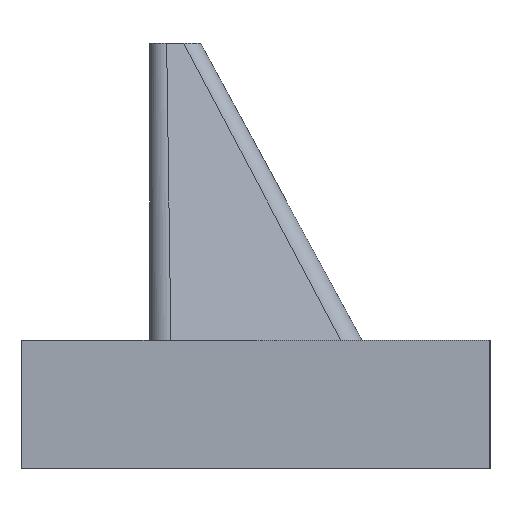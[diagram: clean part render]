
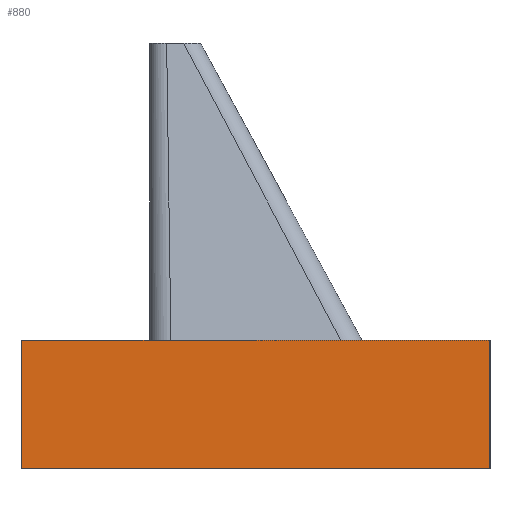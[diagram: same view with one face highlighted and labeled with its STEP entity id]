
A CAD part, left-side view. The second image highlights one B-rep face of the part: STEP entity #880.
In plain terms, the highlighted planar face has unit normal (-1, 0, 0).
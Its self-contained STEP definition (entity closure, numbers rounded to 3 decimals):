
#42 = PLANE('',#43);
#43 = AXIS2_PLACEMENT_3D('',#44,#45,#46);
#44 = CARTESIAN_POINT('',(-6.9,-5.5,3.01));
#45 = DIRECTION('',(0.,0.,1.));
#46 = DIRECTION('',(1.,0.,-0.));
#159 = EDGE_CURVE('',#160,#162,#164,.T.);
#160 = VERTEX_POINT('',#161);
#161 = CARTESIAN_POINT('',(-6.9,-5.5,3.01));
#162 = VERTEX_POINT('',#163);
#163 = CARTESIAN_POINT('',(-6.9,5.5,3.01));
#164 = SURFACE_CURVE('',#165,(#169,#176),.PCURVE_S1.);
#165 = LINE('',#166,#167);
#166 = CARTESIAN_POINT('',(-6.9,-5.5,3.01));
#167 = VECTOR('',#168,1.);
#168 = DIRECTION('',(-0.,1.,0.));
#169 = PCURVE('',#42,#170);
#170 = DEFINITIONAL_REPRESENTATION('',(#171),#175);
#171 = LINE('',#172,#173);
#172 = CARTESIAN_POINT('',(0.,0.));
#173 = VECTOR('',#174,1.);
#174 = DIRECTION('',(0.,1.));
#175 = ( GEOMETRIC_REPRESENTATION_CONTEXT(2) 
PARAMETRIC_REPRESENTATION_CONTEXT() REPRESENTATION_CONTEXT('2D SPACE',''
  ) );
#176 = PCURVE('',#177,#182);
#177 = PLANE('',#178);
#178 = AXIS2_PLACEMENT_3D('',#179,#180,#181);
#179 = CARTESIAN_POINT('',(-6.9,-5.5,0.));
#180 = DIRECTION('',(1.,0.,-0.));
#181 = DIRECTION('',(0.,0.,1.));
#182 = DEFINITIONAL_REPRESENTATION('',(#183),#187);
#183 = LINE('',#184,#185);
#184 = CARTESIAN_POINT('',(3.01,0.));
#185 = VECTOR('',#186,1.);
#186 = DIRECTION('',(0.,-1.));
#187 = ( GEOMETRIC_REPRESENTATION_CONTEXT(2) 
PARAMETRIC_REPRESENTATION_CONTEXT() REPRESENTATION_CONTEXT('2D SPACE',''
  ) );
#205 = PLANE('',#206);
#206 = AXIS2_PLACEMENT_3D('',#207,#208,#209);
#207 = CARTESIAN_POINT('',(-6.9,-5.5,0.));
#208 = DIRECTION('',(-0.,1.,0.));
#209 = DIRECTION('',(0.,0.,1.));
#259 = PLANE('',#260);
#260 = AXIS2_PLACEMENT_3D('',#261,#262,#263);
#261 = CARTESIAN_POINT('',(-6.9,5.5,0.));
#262 = DIRECTION('',(-0.,1.,0.));
#263 = DIRECTION('',(0.,0.,1.));
#880 = ADVANCED_FACE('',(#881),#177,.F.);
#881 = FACE_BOUND('',#882,.F.);
#882 = EDGE_LOOP('',(#883,#906,#934,#955));
#883 = ORIENTED_EDGE('',*,*,#884,.F.);
#884 = EDGE_CURVE('',#885,#160,#887,.T.);
#885 = VERTEX_POINT('',#886);
#886 = CARTESIAN_POINT('',(-6.9,-5.5,0.));
#887 = SURFACE_CURVE('',#888,(#892,#899),.PCURVE_S1.);
#888 = LINE('',#889,#890);
#889 = CARTESIAN_POINT('',(-6.9,-5.5,0.));
#890 = VECTOR('',#891,1.);
#891 = DIRECTION('',(0.,0.,1.));
#892 = PCURVE('',#177,#893);
#893 = DEFINITIONAL_REPRESENTATION('',(#894),#898);
#894 = LINE('',#895,#896);
#895 = CARTESIAN_POINT('',(0.,0.));
#896 = VECTOR('',#897,1.);
#897 = DIRECTION('',(1.,0.));
#898 = ( GEOMETRIC_REPRESENTATION_CONTEXT(2) 
PARAMETRIC_REPRESENTATION_CONTEXT() REPRESENTATION_CONTEXT('2D SPACE',''
  ) );
#899 = PCURVE('',#205,#900);
#900 = DEFINITIONAL_REPRESENTATION('',(#901),#905);
#901 = LINE('',#902,#903);
#902 = CARTESIAN_POINT('',(0.,0.));
#903 = VECTOR('',#904,1.);
#904 = DIRECTION('',(1.,0.));
#905 = ( GEOMETRIC_REPRESENTATION_CONTEXT(2) 
PARAMETRIC_REPRESENTATION_CONTEXT() REPRESENTATION_CONTEXT('2D SPACE',''
  ) );
#906 = ORIENTED_EDGE('',*,*,#907,.T.);
#907 = EDGE_CURVE('',#885,#908,#910,.T.);
#908 = VERTEX_POINT('',#909);
#909 = CARTESIAN_POINT('',(-6.9,5.5,0.));
#910 = SURFACE_CURVE('',#911,(#915,#922),.PCURVE_S1.);
#911 = LINE('',#912,#913);
#912 = CARTESIAN_POINT('',(-6.9,-5.5,0.));
#913 = VECTOR('',#914,1.);
#914 = DIRECTION('',(-0.,1.,0.));
#915 = PCURVE('',#177,#916);
#916 = DEFINITIONAL_REPRESENTATION('',(#917),#921);
#917 = LINE('',#918,#919);
#918 = CARTESIAN_POINT('',(0.,0.));
#919 = VECTOR('',#920,1.);
#920 = DIRECTION('',(0.,-1.));
#921 = ( GEOMETRIC_REPRESENTATION_CONTEXT(2) 
PARAMETRIC_REPRESENTATION_CONTEXT() REPRESENTATION_CONTEXT('2D SPACE',''
  ) );
#922 = PCURVE('',#923,#928);
#923 = PLANE('',#924);
#924 = AXIS2_PLACEMENT_3D('',#925,#926,#927);
#925 = CARTESIAN_POINT('',(-6.9,-5.5,0.));
#926 = DIRECTION('',(0.,0.,1.));
#927 = DIRECTION('',(1.,0.,-0.));
#928 = DEFINITIONAL_REPRESENTATION('',(#929),#933);
#929 = LINE('',#930,#931);
#930 = CARTESIAN_POINT('',(0.,0.));
#931 = VECTOR('',#932,1.);
#932 = DIRECTION('',(0.,1.));
#933 = ( GEOMETRIC_REPRESENTATION_CONTEXT(2) 
PARAMETRIC_REPRESENTATION_CONTEXT() REPRESENTATION_CONTEXT('2D SPACE',''
  ) );
#934 = ORIENTED_EDGE('',*,*,#935,.T.);
#935 = EDGE_CURVE('',#908,#162,#936,.T.);
#936 = SURFACE_CURVE('',#937,(#941,#948),.PCURVE_S1.);
#937 = LINE('',#938,#939);
#938 = CARTESIAN_POINT('',(-6.9,5.5,0.));
#939 = VECTOR('',#940,1.);
#940 = DIRECTION('',(0.,0.,1.));
#941 = PCURVE('',#177,#942);
#942 = DEFINITIONAL_REPRESENTATION('',(#943),#947);
#943 = LINE('',#944,#945);
#944 = CARTESIAN_POINT('',(0.,-11.));
#945 = VECTOR('',#946,1.);
#946 = DIRECTION('',(1.,0.));
#947 = ( GEOMETRIC_REPRESENTATION_CONTEXT(2) 
PARAMETRIC_REPRESENTATION_CONTEXT() REPRESENTATION_CONTEXT('2D SPACE',''
  ) );
#948 = PCURVE('',#259,#949);
#949 = DEFINITIONAL_REPRESENTATION('',(#950),#954);
#950 = LINE('',#951,#952);
#951 = CARTESIAN_POINT('',(0.,0.));
#952 = VECTOR('',#953,1.);
#953 = DIRECTION('',(1.,0.));
#954 = ( GEOMETRIC_REPRESENTATION_CONTEXT(2) 
PARAMETRIC_REPRESENTATION_CONTEXT() REPRESENTATION_CONTEXT('2D SPACE',''
  ) );
#955 = ORIENTED_EDGE('',*,*,#159,.F.);
